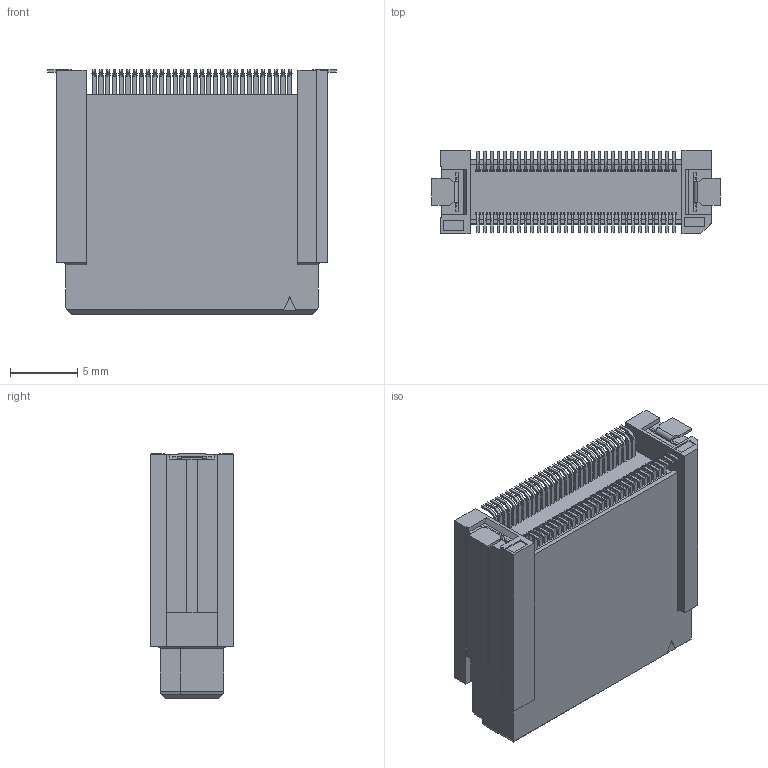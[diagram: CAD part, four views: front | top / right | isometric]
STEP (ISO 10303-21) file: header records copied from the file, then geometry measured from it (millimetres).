
FILE_DESCRIPTION(('Creo Elements/Direct Modeling STEP Export'),'2;1');
FILE_NAME('P3D464_DT10-060S-20-T.stp','2022-03-16T10:11:48',(''),(''),'Creo Elements/Direct Modeling STEP processor for AP214 (Solid Model)','Creo Elements/Direct Modeling 20.4A 18-Oct-2021 (C) Parametric Technology GmbH','');
FILE_SCHEMA(('AUTOMOTIVE_DESIGN { 1 0 10303 214 1 1 1 1 }'));
Products named in the file (2): DT10-060S-20-T
Assembly tree (1 placements, depth 2):
  DT10-060S-20-T
    DT10-060S-20-T
Bounding box: 21.4 x 6.2 x 18.18 mm (x, y, z)
Volume: 1559.6 mm3; surface area: 1450.9 mm2
Topology: 1 solids, 1 shells, 1903 faces, 5369 edges, 3535 vertices
Faces by surface type: plane 1531, cylinder 372
Entity records: 60670 total; most frequent: ORIENTED_EDGE 10738, CARTESIAN_POINT 10685, DIRECTION 9917, EDGE_CURVE 5369, VECTOR 4383, LINE 4383, VERTEX_POINT 3535, AXIS2_PLACEMENT_3D 2767
